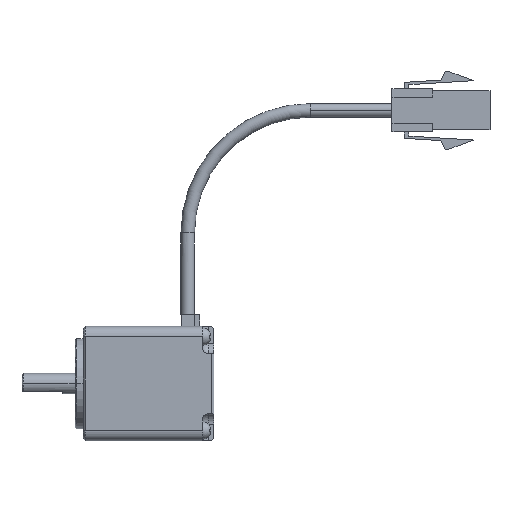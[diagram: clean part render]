
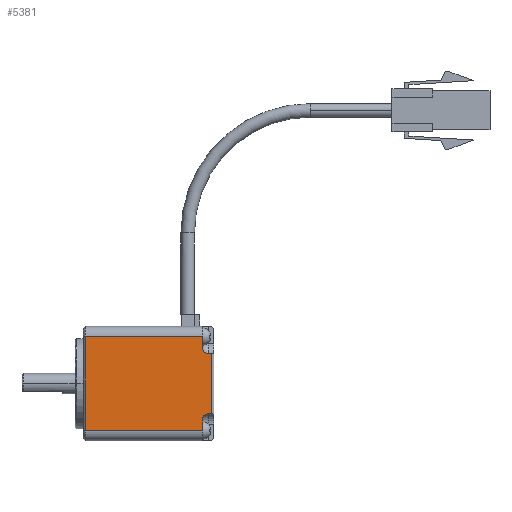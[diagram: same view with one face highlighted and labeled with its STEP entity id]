
A CAD part, top view. The second image highlights one B-rep face of the part: STEP entity #5381.
In plain terms, the highlighted planar face has unit normal (0, 0, 1) as drawn and (-1, 0, 0) by its records, which use the part's own axes.
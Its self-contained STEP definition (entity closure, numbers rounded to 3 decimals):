
#112 = CARTESIAN_POINT ( 'NONE',  ( 95.751, -67.151, 16.5 ) ) ;
#464 = CARTESIAN_POINT ( 'NONE',  ( 95.751, -90.151, 2.8 ) ) ;
#544 = DIRECTION ( 'NONE',  ( 0., 0., -1. ) ) ;
#597 = DIRECTION ( 'NONE',  ( -1., 0., 0. ) ) ;
#628 = CARTESIAN_POINT ( 'NONE',  ( 95.751, -87.451, 1.3 ) ) ;
#744 = EDGE_CURVE ( 'NONE', #4105, #3693, #7956, .T. ) ;
#770 = DIRECTION ( 'NONE',  ( 0., 0., -1. ) ) ;
#805 = VECTOR ( 'NONE', #7407, 1000. ) ;
#809 = EDGE_CURVE ( 'NONE', #4269, #2434, #1077, .T. ) ;
#1077 = CIRCLE ( 'NONE', #4792, 1.5 ) ;
#1134 = LINE ( 'NONE', #5547, #2625 ) ;
#1225 = VECTOR ( 'NONE', #6147, 1000. ) ;
#1276 = CARTESIAN_POINT ( 'NONE',  ( 95.751, -64.651, 31.5 ) ) ;
#1321 = VECTOR ( 'NONE', #3275, 1000. ) ;
#1402 = LINE ( 'NONE', #3881, #6230 ) ;
#1410 = EDGE_CURVE ( 'NONE', #2077, #6118, #5599, .T. ) ;
#1415 = CARTESIAN_POINT ( 'NONE',  ( 95.751, -90.151, 31.5 ) ) ;
#1416 = LINE ( 'NONE', #5536, #1225 ) ;
#1541 = DIRECTION ( 'NONE',  ( 0., 0., 1. ) ) ;
#1675 = VERTEX_POINT ( 'NONE', #7469 ) ;
#1796 = CARTESIAN_POINT ( 'NONE',  ( 95.751, -69.751, 2.8 ) ) ;
#1826 = CARTESIAN_POINT ( 'NONE',  ( 95.751, -71.251, 0.5 ) ) ;
#1836 = CARTESIAN_POINT ( 'NONE',  ( 95.751, -71.251, 1.4 ) ) ;
#1916 = DIRECTION ( 'NONE',  ( 0., 1., 0. ) ) ;
#1960 = CARTESIAN_POINT ( 'NONE',  ( 95.751, -71.251, 1.3 ) ) ;
#1970 = ORIENTED_EDGE ( 'NONE', *, *, #3973, .F. ) ;
#2077 = VERTEX_POINT ( 'NONE', #1415 ) ;
#2296 = EDGE_CURVE ( 'NONE', #1675, #2434, #4898, .T. ) ;
#2350 = EDGE_CURVE ( 'NONE', #4105, #1675, #1134, .T. ) ;
#2382 = CARTESIAN_POINT ( 'NONE',  ( 95.751, -85.951, 1.3 ) ) ;
#2434 = VERTEX_POINT ( 'NONE', #2382 ) ;
#2625 = VECTOR ( 'NONE', #5679, 1000. ) ;
#2910 = LINE ( 'NONE', #112, #6035 ) ;
#2928 = ORIENTED_EDGE ( 'NONE', *, *, #7807, .T. ) ;
#3263 = EDGE_CURVE ( 'NONE', #5022, #3693, #4488, .T. ) ;
#3274 = ORIENTED_EDGE ( 'NONE', *, *, #744, .F. ) ;
#3275 = DIRECTION ( 'NONE',  ( 0., 0., 1. ) ) ;
#3436 = EDGE_CURVE ( 'NONE', #5543, #2077, #1402, .T. ) ;
#3464 = PLANE ( 'NONE',  #4878 ) ;
#3490 = CARTESIAN_POINT ( 'NONE',  ( 95.751, -64.651, 0. ) ) ;
#3693 = VERTEX_POINT ( 'NONE', #1960 ) ;
#3814 = DIRECTION ( 'NONE',  ( 0., 0., 1. ) ) ;
#3836 = CARTESIAN_POINT ( 'NONE',  ( 95.751, -67.151, 2.8 ) ) ;
#3881 = CARTESIAN_POINT ( 'NONE',  ( 95.751, -90.151, 16.5 ) ) ;
#3973 = EDGE_CURVE ( 'NONE', #5543, #4269, #4179, .T. ) ;
#4042 = VERTEX_POINT ( 'NONE', #3836 ) ;
#4105 = VERTEX_POINT ( 'NONE', #1826 ) ;
#4127 = DIRECTION ( 'NONE',  ( 0., -1., 0. ) ) ;
#4159 = ORIENTED_EDGE ( 'NONE', *, *, #809, .F. ) ;
#4175 = ORIENTED_EDGE ( 'NONE', *, *, #3436, .T. ) ;
#4179 = LINE ( 'NONE', #7488, #805 ) ;
#4269 = VERTEX_POINT ( 'NONE', #6726 ) ;
#4457 = ORIENTED_EDGE ( 'NONE', *, *, #2296, .T. ) ;
#4488 = CIRCLE ( 'NONE', #5889, 1.5 ) ;
#4792 = AXIS2_PLACEMENT_3D ( 'NONE', #628, #597, #544 ) ;
#4869 = CARTESIAN_POINT ( 'NONE',  ( 95.751, -67.151, 31.5 ) ) ;
#4878 = AXIS2_PLACEMENT_3D ( 'NONE', #3490, #7872, #4127 ) ;
#4898 = LINE ( 'NONE', #7665, #1321 ) ;
#4929 = ORIENTED_EDGE ( 'NONE', *, *, #1410, .T. ) ;
#5022 = VERTEX_POINT ( 'NONE', #1796 ) ;
#5067 = DIRECTION ( 'NONE',  ( 0., 0., 1. ) ) ;
#5076 = DIRECTION ( 'NONE',  ( 1., 0., 0. ) ) ;
#5085 = CARTESIAN_POINT ( 'NONE',  ( 95.751, -69.751, 1.3 ) ) ;
#5381 = ADVANCED_FACE ( 'NONE', ( #7146 ), #3464, .T. ) ;
#5536 = CARTESIAN_POINT ( 'NONE',  ( 95.751, -78.651, 2.8 ) ) ;
#5543 = VERTEX_POINT ( 'NONE', #464 ) ;
#5547 = CARTESIAN_POINT ( 'NONE',  ( 95.751, -78.651, 0.5 ) ) ;
#5549 = ORIENTED_EDGE ( 'NONE', *, *, #3263, .T. ) ;
#5599 = LINE ( 'NONE', #1276, #5788 ) ;
#5679 = DIRECTION ( 'NONE',  ( 0., -1., 0. ) ) ;
#5788 = VECTOR ( 'NONE', #1916, 1000. ) ;
#5889 = AXIS2_PLACEMENT_3D ( 'NONE', #5085, #5076, #5067 ) ;
#6035 = VECTOR ( 'NONE', #770, 1000. ) ;
#6118 = VERTEX_POINT ( 'NONE', #4869 ) ;
#6147 = DIRECTION ( 'NONE',  ( 0., -1., 0. ) ) ;
#6230 = VECTOR ( 'NONE', #3814, 1000. ) ;
#6255 = EDGE_LOOP ( 'NONE', ( #4175, #4929, #6769, #2928, #5549, #3274, #7127, #4457, #4159, #1970 ) ) ;
#6294 = VECTOR ( 'NONE', #1541, 1000. ) ;
#6726 = CARTESIAN_POINT ( 'NONE',  ( 95.751, -87.451, 2.8 ) ) ;
#6769 = ORIENTED_EDGE ( 'NONE', *, *, #8120, .T. ) ;
#7127 = ORIENTED_EDGE ( 'NONE', *, *, #2350, .T. ) ;
#7146 = FACE_OUTER_BOUND ( 'NONE', #6255, .T. ) ;
#7407 = DIRECTION ( 'NONE',  ( 0., 1., 0. ) ) ;
#7469 = CARTESIAN_POINT ( 'NONE',  ( 95.751, -85.951, 0.5 ) ) ;
#7488 = CARTESIAN_POINT ( 'NONE',  ( 95.751, -89.301, 2.8 ) ) ;
#7665 = CARTESIAN_POINT ( 'NONE',  ( 95.751, -85.951, 16.5 ) ) ;
#7807 = EDGE_CURVE ( 'NONE', #4042, #5022, #1416, .T. ) ;
#7872 = DIRECTION ( 'NONE',  ( -1., 0., 0. ) ) ;
#7956 = LINE ( 'NONE', #1836, #6294 ) ;
#8120 = EDGE_CURVE ( 'NONE', #6118, #4042, #2910, .T. ) ;
